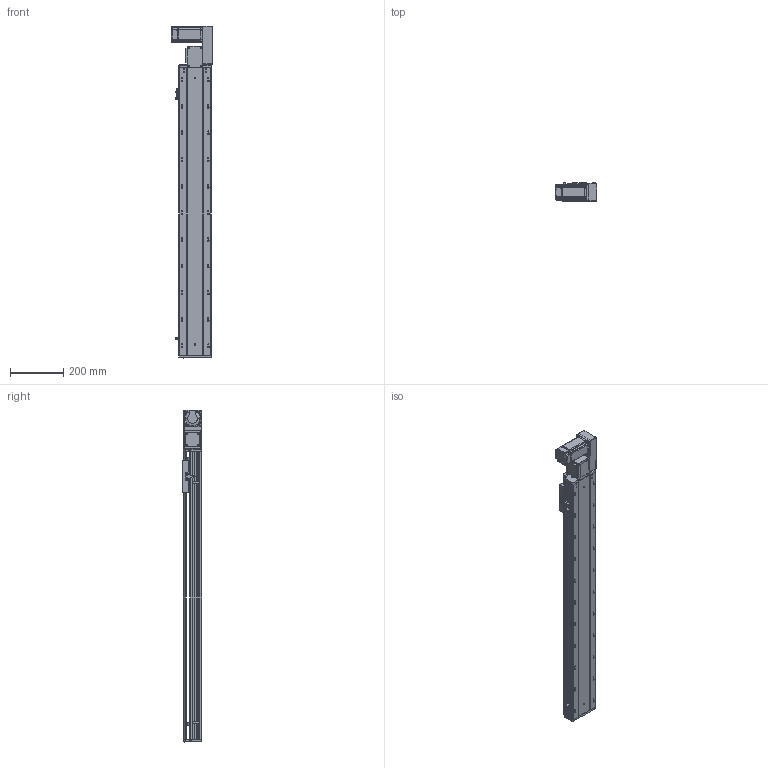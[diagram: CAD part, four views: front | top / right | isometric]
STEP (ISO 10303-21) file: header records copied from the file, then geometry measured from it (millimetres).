
FILE_DESCRIPTION (( 'STEP AP203' ), '1' );
FILE_NAME ('RY120-T-300-RK.SLDASM_850.step', '2021-03-01T03:53:21', ( '盈信电脑' ), ( '东莞市道滘镇水果街19号' ), 'SwSTEP 2.0', 'SolidWorks 2012', '' );
FILE_SCHEMA (( 'CONFIG_CONTROL_DESIGN' ));
Products named in the file (17): RY120-T萇儂假蚾啣; 15; RY120-T翋肮祭謫裔啣; RY120-T主同步轮轴承压盖; RY120-T蹟翐M4; RY120-T萇儂欶; RY120-T-300-RK.SLDASM_850; RY120-T肮祭湍揤踡輸1; RY120-T肮祭湍揤踡輸2; RY120綴裔啣; RY120肮祭湍臏賑輸; RY120-T-300-RK倰第奻裔啣_850; RY120-T-300-RK倰第菁釱_850; 滅袉蝶18-10; RY120-T翋肮祭盓傅釱; 覜茼ん672; RY120外置感应片(140共用）
Assembly tree (22 placements, depth 2):
  RY120-T-300-RK.SLDASM_850
    RY120-T-300-RK倰第菁釱_850
    RY120-T-300-RK倰第奻裔啣_850
    RY120肮祭湍臏賑輸
    RY120綴裔啣
    覜茼ん672  x3
    RY120外置感应片(140共用）
    RY120-T肮祭湍揤踡輸1
    RY120-T肮祭湍揤踡輸2
    RY120-T翋肮祭盓傅釱
    滅袉蝶18-10  x2
    RY120-T翋肮祭謫裔啣
    15
    RY120-T萇儂假蚾啣
    RY120-T蹟翐M4  x4
    RY120-T萇儂欶
    RY120-T主同步轮轴承压盖
Bounding box: 155.5 x 73 x 1247.5 mm (x, y, z)
Volume: 3281202.1 mm3; surface area: 1222308.3 mm2
Topology: 23 solids, 23 shells, 2968 faces, 8160 edges, 5250 vertices
Faces by surface type: plane 1456, cylinder 1174, cone 249, bspline 89
Entity records: 96449 total; most frequent: CARTESIAN_POINT 25608, ORIENTED_EDGE 14760, DIRECTION 13734, EDGE_CURVE 7380, VERTEX_POINT 4837, AXIS2_PLACEMENT_3D 4623, LINE 4488, VECTOR 4488
